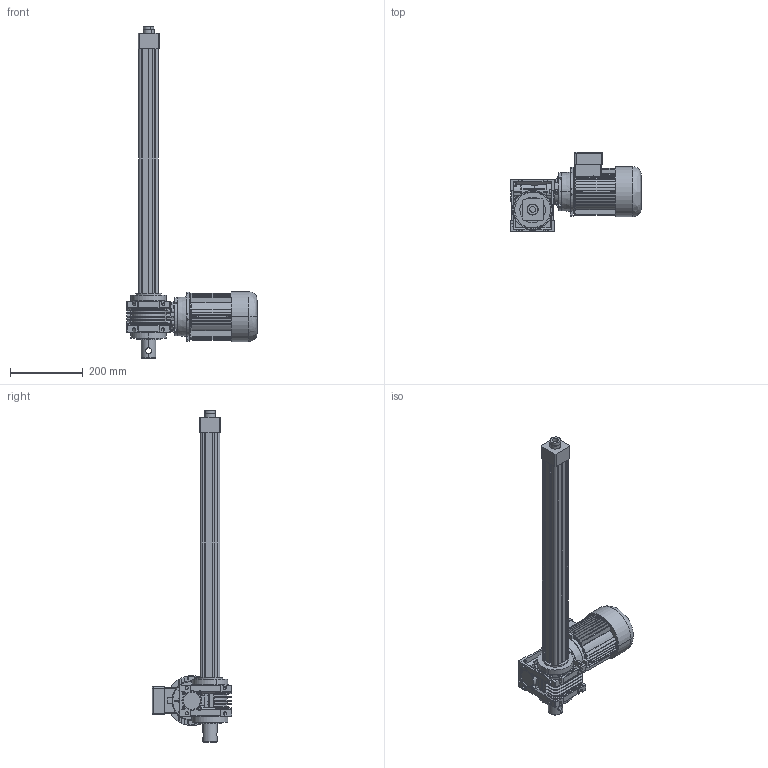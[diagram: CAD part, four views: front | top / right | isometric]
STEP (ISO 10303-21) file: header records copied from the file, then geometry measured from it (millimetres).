
FILE_DESCRIPTION (( 'STEP AP214' ), '1' );
FILE_NAME ('Ass RV40 TR C600.STEP', '2016-11-27T05:40:01', ( 'Hubert' ), ( '' ), 'SwSTEP 2.0', 'SolidWorks 2014', '' );
FILE_SCHEMA (( 'AUTOMOTIVE_DESIGN' ));
Length unit declared in the file: millimetre
Products named in the file (14): PAAV 40 dif; Profilé RV40 TR C600; PARR RV40 dif; Tube RV40 TR C600; Vis RV40 TR C600; Chape AR RV 40; NMRV050B14_Mot 71; _T_71_B_4_B14_F_230-400-50.3d; _ALBERO_T07114X30NO_3; _50-71 B14_1; _VB 050-14 (14)_1; _050-25 (92)_1; _Gear unit 50_1; Ass RV40 TR C600
Assembly tree (13 placements, depth 3):
  Ass RV40 TR C600
    NMRV050B14_Mot 71
      _Gear unit 50_1
      _050-25 (92)_1
      _VB 050-14 (14)_1
      _50-71 B14_1
      _ALBERO_T07114X30NO_3
      _T_71_B_4_B14_F_230-400-50.3d
    Chape AR RV 40
    Vis RV40 TR C600
    Tube RV40 TR C600
    PARR RV40 dif
    Profilé RV40 TR C600
    PAAV 40 dif
Bounding box: 358 x 219 x 911 mm (x, y, z)
Volume: 5403898.3 mm3; surface area: 1002660.1 mm2
Topology: 12 solids, 18 shells, 1813 faces, 4891 edges, 3171 vertices
Faces by surface type: plane 932, cylinder 604, cone 176, bspline 97, torus 4
Entity records: 80441 total; most frequent: CARTESIAN_POINT 15813, ORIENTED_EDGE 9722, DIRECTION 9306, EDGE_CURVE 4861, AXIS2_PLACEMENT_3D 3317, VERTEX_POINT 3171, VECTOR 2672, LINE 2672
